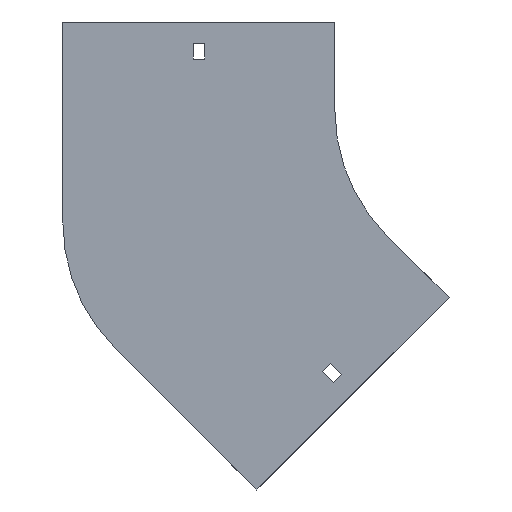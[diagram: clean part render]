
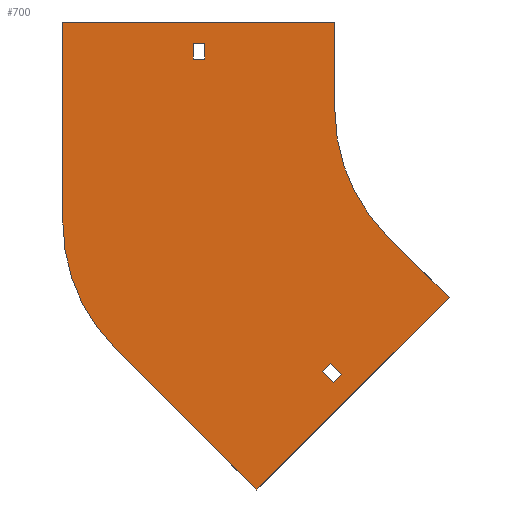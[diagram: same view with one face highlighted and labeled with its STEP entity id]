
A CAD part, front view. The second image highlights one B-rep face of the part: STEP entity #700.
In plain terms, the highlighted planar face has unit normal (0, -1, 0).
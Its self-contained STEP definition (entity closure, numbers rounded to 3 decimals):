
#2 = VERTEX_POINT ( 'NONE', #984 ) ;
#6 = ORIENTED_EDGE ( 'NONE', *, *, #832, .F. ) ;
#19 = VECTOR ( 'NONE', #601, 1000. ) ;
#38 = VECTOR ( 'NONE', #402, 1000. ) ;
#56 = CARTESIAN_POINT ( 'NONE',  ( 0., 0., 0. ) ) ;
#67 = CARTESIAN_POINT ( 'NONE',  ( -100.586, 0., -154.326 ) ) ;
#74 = LINE ( 'NONE', #509, #1067 ) ;
#102 = CARTESIAN_POINT ( 'NONE',  ( 0., 0., 0. ) ) ;
#120 = EDGE_CURVE ( 'NONE', #1050, #636, #989, .T. ) ;
#126 = CARTESIAN_POINT ( 'NONE',  ( -70.711, 0., -70.711 ) ) ;
#128 = CARTESIAN_POINT ( 'NONE',  ( -106.95, 0., -147.962 ) ) ;
#146 = ORIENTED_EDGE ( 'NONE', *, *, #973, .F. ) ;
#178 = ORIENTED_EDGE ( 'NONE', *, *, #696, .F. ) ;
#184 = CARTESIAN_POINT ( 'NONE',  ( -254., 0., 50. ) ) ;
#186 = LINE ( 'NONE', #619, #1135 ) ;
#188 = EDGE_CURVE ( 'NONE', #222, #408, #839, .T. ) ;
#193 = LINE ( 'NONE', #741, #38 ) ;
#195 = DIRECTION ( 'NONE',  ( 0., -1., 0. ) ) ;
#197 = VERTEX_POINT ( 'NONE', #399 ) ;
#202 = CARTESIAN_POINT ( 'NONE',  ( -154., 0., -63.789 ) ) ;
#210 = CARTESIAN_POINT ( 'NONE',  ( -106.95, 0., -147.962 ) ) ;
#222 = VERTEX_POINT ( 'NONE', #293 ) ;
#233 = CARTESIAN_POINT ( 'NONE',  ( -144.25, 0., -214.96 ) ) ;
#247 = EDGE_CURVE ( 'NONE', #1389, #2, #1268, .T. ) ;
#251 = VECTOR ( 'NONE', #931, 1000. ) ;
#272 = LINE ( 'NONE', #695, #881 ) ;
#274 = LINE ( 'NONE', #689, #1195 ) ;
#277 = EDGE_LOOP ( 'NONE', ( #855, #878, #146, #553, #6, #1150, #1074, #910 ) ) ;
#279 = CARTESIAN_POINT ( 'NONE',  ( -173.75, 0., 29. ) ) ;
#293 = CARTESIAN_POINT ( 'NONE',  ( -100.586, 0., -154.326 ) ) ;
#297 = DIRECTION ( 'NONE',  ( -0.707, 0., 0.707 ) ) ;
#300 = AXIS2_PLACEMENT_3D ( 'NONE', #202, #1368, #400 ) ;
#302 = VERTEX_POINT ( 'NONE', #998 ) ;
#306 = EDGE_CURVE ( 'NONE', #417, #1069, #438, .T. ) ;
#344 = VECTOR ( 'NONE', #1203, 1000. ) ;
#348 = EDGE_CURVE ( 'NONE', #197, #417, #1363, .T. ) ;
#354 = CARTESIAN_POINT ( 'NONE',  ( -173.75, 0., 29. ) ) ;
#394 = DIRECTION ( 'NONE',  ( 0., 0., 1. ) ) ;
#399 = CARTESIAN_POINT ( 'NONE',  ( -254., 0., -63.789 ) ) ;
#400 = DIRECTION ( 'NONE',  ( 0., 0., 1. ) ) ;
#402 = DIRECTION ( 'NONE',  ( 0., 0., 1. ) ) ;
#408 = VERTEX_POINT ( 'NONE', #1235 ) ;
#413 = EDGE_CURVE ( 'NONE', #1069, #424, #274, .T. ) ;
#417 = VERTEX_POINT ( 'NONE', #184 ) ;
#424 = VERTEX_POINT ( 'NONE', #1125 ) ;
#437 = EDGE_CURVE ( 'NONE', #636, #755, #497, .T. ) ;
#438 = LINE ( 'NONE', #448, #1216 ) ;
#448 = CARTESIAN_POINT ( 'NONE',  ( -254., 0., 50. ) ) ;
#459 = AXIS2_PLACEMENT_3D ( 'NONE', #102, #195, #628 ) ;
#466 = DIRECTION ( 'NONE',  ( 0., 0., -1. ) ) ;
#491 = CARTESIAN_POINT ( 'NONE',  ( -224.711, 0., -134.5 ) ) ;
#492 = CARTESIAN_POINT ( 'NONE',  ( -180.25, 0., 38. ) ) ;
#497 = LINE ( 'NONE', #698, #19 ) ;
#500 = DIRECTION ( 'NONE',  ( -0.707, 0., 0.707 ) ) ;
#509 = CARTESIAN_POINT ( 'NONE',  ( -102.354, 0., -143.366 ) ) ;
#511 = LINE ( 'NONE', #128, #1045 ) ;
#522 = EDGE_CURVE ( 'NONE', #755, #1276, #193, .T. ) ;
#525 = ORIENTED_EDGE ( 'NONE', *, *, #437, .T. ) ;
#553 = ORIENTED_EDGE ( 'NONE', *, *, #780, .F. ) ;
#565 = VECTOR ( 'NONE', #394, 1000. ) ;
#570 = CIRCLE ( 'NONE', #641, 100. ) ;
#586 = FACE_OUTER_BOUND ( 'NONE', #277, .T. ) ;
#601 = DIRECTION ( 'NONE',  ( -1., 0., 0. ) ) ;
#619 = CARTESIAN_POINT ( 'NONE',  ( -144.25, 0., -214.96 ) ) ;
#628 = DIRECTION ( 'NONE',  ( 0., 0., -1. ) ) ;
#636 = VERTEX_POINT ( 'NONE', #279 ) ;
#641 = AXIS2_PLACEMENT_3D ( 'NONE', #56, #1208, #466 ) ;
#643 = VERTEX_POINT ( 'NONE', #491 ) ;
#656 = EDGE_LOOP ( 'NONE', ( #811, #664, #1006, #525 ) ) ;
#661 = DIRECTION ( 'NONE',  ( 0.707, 0., -0.707 ) ) ;
#664 = ORIENTED_EDGE ( 'NONE', *, *, #955, .T. ) ;
#681 = CARTESIAN_POINT ( 'NONE',  ( -70.711, 0., -70.711 ) ) ;
#689 = CARTESIAN_POINT ( 'NONE',  ( -100., 0., 50. ) ) ;
#691 = FACE_BOUND ( 'NONE', #1183, .T. ) ;
#695 = CARTESIAN_POINT ( 'NONE',  ( -180.25, 0., 38. ) ) ;
#696 = EDGE_CURVE ( 'NONE', #408, #302, #74, .T. ) ;
#698 = CARTESIAN_POINT ( 'NONE',  ( -180.25, 0., 29. ) ) ;
#700 = ADVANCED_FACE ( 'NONE', ( #1120, #586, #691 ), #1165, .T. ) ;
#741 = CARTESIAN_POINT ( 'NONE',  ( -180.25, 0., 29. ) ) ;
#755 = VERTEX_POINT ( 'NONE', #845 ) ;
#758 = LINE ( 'NONE', #869, #344 ) ;
#780 = EDGE_CURVE ( 'NONE', #886, #643, #186, .T. ) ;
#811 = ORIENTED_EDGE ( 'NONE', *, *, #522, .T. ) ;
#832 = EDGE_CURVE ( 'NONE', #2, #886, #758, .T. ) ;
#839 = LINE ( 'NONE', #67, #251 ) ;
#845 = CARTESIAN_POINT ( 'NONE',  ( -180.25, 0., 29. ) ) ;
#855 = ORIENTED_EDGE ( 'NONE', *, *, #306, .F. ) ;
#869 = CARTESIAN_POINT ( 'NONE',  ( -35.355, 0., -106.066 ) ) ;
#878 = ORIENTED_EDGE ( 'NONE', *, *, #348, .F. ) ;
#881 = VECTOR ( 'NONE', #1131, 1000. ) ;
#885 = DIRECTION ( 'NONE',  ( 0., 0., -1. ) ) ;
#886 = VERTEX_POINT ( 'NONE', #233 ) ;
#896 = ORIENTED_EDGE ( 'NONE', *, *, #1081, .F. ) ;
#902 = CIRCLE ( 'NONE', #300, 100. ) ;
#910 = ORIENTED_EDGE ( 'NONE', *, *, #413, .F. ) ;
#931 = DIRECTION ( 'NONE',  ( 0.707, 0., 0.707 ) ) ;
#955 = EDGE_CURVE ( 'NONE', #1276, #1050, #272, .T. ) ;
#973 = EDGE_CURVE ( 'NONE', #643, #197, #902, .T. ) ;
#984 = CARTESIAN_POINT ( 'NONE',  ( -35.355, 0., -106.066 ) ) ;
#989 = LINE ( 'NONE', #354, #1219 ) ;
#998 = CARTESIAN_POINT ( 'NONE',  ( -102.354, 0., -143.366 ) ) ;
#1006 = ORIENTED_EDGE ( 'NONE', *, *, #120, .T. ) ;
#1034 = CARTESIAN_POINT ( 'NONE',  ( -173.75, 0., 38. ) ) ;
#1045 = VECTOR ( 'NONE', #661, 1000. ) ;
#1050 = VERTEX_POINT ( 'NONE', #1034 ) ;
#1067 = VECTOR ( 'NONE', #500, 1000. ) ;
#1069 = VERTEX_POINT ( 'NONE', #1261 ) ;
#1074 = ORIENTED_EDGE ( 'NONE', *, *, #1269, .F. ) ;
#1080 = ORIENTED_EDGE ( 'NONE', *, *, #188, .F. ) ;
#1081 = EDGE_CURVE ( 'NONE', #1106, #222, #511, .T. ) ;
#1106 = VERTEX_POINT ( 'NONE', #1185 ) ;
#1120 = FACE_BOUND ( 'NONE', #656, .T. ) ;
#1125 = CARTESIAN_POINT ( 'NONE',  ( -100., 0., 0. ) ) ;
#1129 = DIRECTION ( 'NONE',  ( -0.707, 0., -0.707 ) ) ;
#1131 = DIRECTION ( 'NONE',  ( 1., 0., 0. ) ) ;
#1135 = VECTOR ( 'NONE', #297, 1000. ) ;
#1150 = ORIENTED_EDGE ( 'NONE', *, *, #247, .F. ) ;
#1165 = PLANE ( 'NONE',  #459 ) ;
#1173 = LINE ( 'NONE', #210, #1279 ) ;
#1183 = EDGE_LOOP ( 'NONE', ( #1080, #896, #1357, #178 ) ) ;
#1185 = CARTESIAN_POINT ( 'NONE',  ( -106.95, 0., -147.962 ) ) ;
#1186 = EDGE_CURVE ( 'NONE', #302, #1106, #1173, .T. ) ;
#1195 = VECTOR ( 'NONE', #1253, 1000. ) ;
#1203 = DIRECTION ( 'NONE',  ( -0.707, 0., -0.707 ) ) ;
#1208 = DIRECTION ( 'NONE',  ( 0., -1., 0. ) ) ;
#1216 = VECTOR ( 'NONE', #1300, 1000. ) ;
#1219 = VECTOR ( 'NONE', #885, 1000. ) ;
#1225 = CARTESIAN_POINT ( 'NONE',  ( -254., 0., -63.789 ) ) ;
#1235 = CARTESIAN_POINT ( 'NONE',  ( -95.99, 0., -149.73 ) ) ;
#1253 = DIRECTION ( 'NONE',  ( 0., 0., -1. ) ) ;
#1261 = CARTESIAN_POINT ( 'NONE',  ( -100., 0., 50. ) ) ;
#1268 = LINE ( 'NONE', #126, #1404 ) ;
#1269 = EDGE_CURVE ( 'NONE', #424, #1389, #570, .T. ) ;
#1276 = VERTEX_POINT ( 'NONE', #492 ) ;
#1279 = VECTOR ( 'NONE', #1129, 1000. ) ;
#1300 = DIRECTION ( 'NONE',  ( 1., 0., 0. ) ) ;
#1318 = DIRECTION ( 'NONE',  ( 0.707, 0., -0.707 ) ) ;
#1357 = ORIENTED_EDGE ( 'NONE', *, *, #1186, .F. ) ;
#1363 = LINE ( 'NONE', #1225, #565 ) ;
#1368 = DIRECTION ( 'NONE',  ( 0., 1., 0. ) ) ;
#1389 = VERTEX_POINT ( 'NONE', #681 ) ;
#1404 = VECTOR ( 'NONE', #1318, 1000. ) ;
